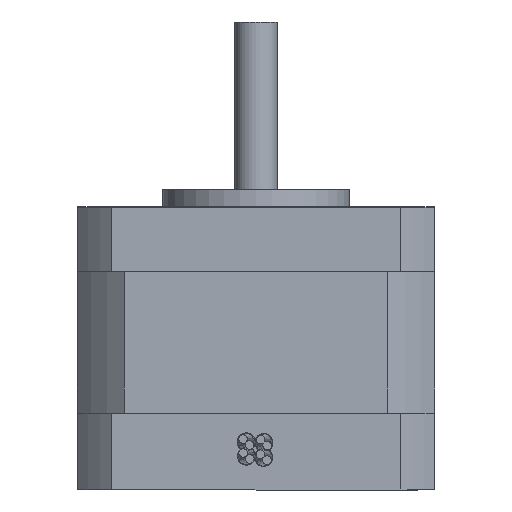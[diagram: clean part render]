
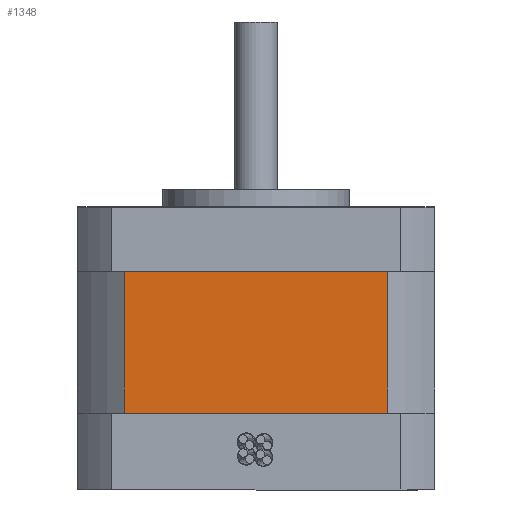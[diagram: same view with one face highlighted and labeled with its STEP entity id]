
A CAD part, front view. The second image highlights one B-rep face of the part: STEP entity #1348.
In plain terms, the highlighted planar face has unit normal (0, -1, 0).
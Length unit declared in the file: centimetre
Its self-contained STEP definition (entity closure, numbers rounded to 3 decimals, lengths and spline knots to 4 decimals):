
#411=VECTOR('',#1735,1.);
#412=VECTOR('',#1739,1.);
#413=VECTOR('',#1740,1.);
#414=VECTOR('',#1741,1.);
#477=LINE('',#2105,#411);
#478=LINE('',#2109,#412);
#479=LINE('',#2111,#413);
#480=LINE('',#2113,#414);
#569=VERTEX_POINT('',#2104);
#570=VERTEX_POINT('',#2106);
#571=VERTEX_POINT('',#2110);
#572=VERTEX_POINT('',#2112);
#758=EDGE_CURVE('',#570,#569,#477,.T.);
#760=EDGE_CURVE('',#569,#571,#478,.T.);
#761=EDGE_CURVE('',#572,#571,#479,.T.);
#762=EDGE_CURVE('',#570,#572,#480,.T.);
#973=ORIENTED_EDGE('',*,*,#760,.T.);
#974=ORIENTED_EDGE('',*,*,#761,.F.);
#975=ORIENTED_EDGE('',*,*,#762,.F.);
#976=ORIENTED_EDGE('',*,*,#758,.T.);
#1157=EDGE_LOOP('',(#973,#974,#975,#976));
#1269=FACE_BOUND('',#1157,.T.);
#1348=ADVANCED_FACE('',(#1269),#2586,.T.);
#1460=AXIS2_PLACEMENT_3D('',#2108,#1738,$);
#1735=DIRECTION('',(0.,0.,-1.));
#1738=DIRECTION('',(0.,-1.,0.));
#1739=DIRECTION('',(1.,0.,0.));
#1740=DIRECTION('',(0.,0.,-1.));
#1741=DIRECTION('',(1.,0.,0.));
#2104=CARTESIAN_POINT('',(-1.55,-2.1,-1.6662));
#2105=CARTESIAN_POINT('',(-1.55,-2.1,0.));
#2106=CARTESIAN_POINT('',(-1.55,-2.1,0.));
#2108=CARTESIAN_POINT('',(0.,-2.1,0.));
#2109=CARTESIAN_POINT('',(-1.55,-2.1,-1.6662));
#2110=CARTESIAN_POINT('',(1.55,-2.1,-1.6662));
#2111=CARTESIAN_POINT('',(1.55,-2.1,0.));
#2112=CARTESIAN_POINT('',(1.55,-2.1,0.));
#2113=CARTESIAN_POINT('',(-1.55,-2.1,0.));
#2586=PLANE('',#1460);
